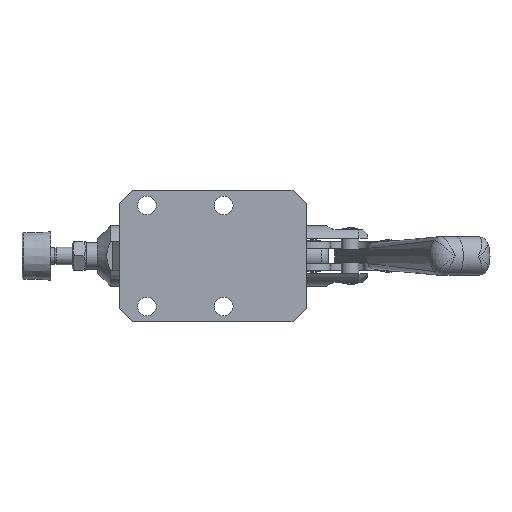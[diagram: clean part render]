
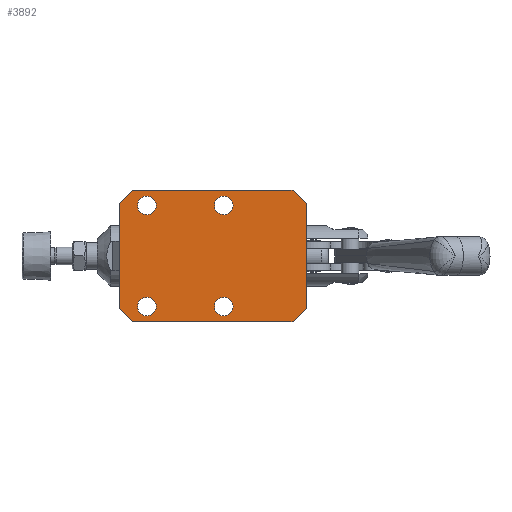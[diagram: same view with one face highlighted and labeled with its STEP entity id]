
A CAD part, front view. The second image highlights one B-rep face of the part: STEP entity #3892.
In plain terms, the highlighted planar face has unit normal (0, -1, 0).
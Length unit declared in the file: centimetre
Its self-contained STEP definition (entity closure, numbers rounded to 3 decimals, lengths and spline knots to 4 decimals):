
#204=FACE_BOUND($,#933,.T.);
#205=FACE_BOUND($,#934,.T.);
#206=FACE_BOUND($,#935,.T.);
#207=FACE_BOUND($,#936,.T.);
#208=FACE_BOUND($,#937,.T.);
#369=CIRCLE($,#4220,0.425);
#371=CIRCLE($,#4223,0.425);
#373=CIRCLE($,#4226,0.425);
#375=CIRCLE($,#4229,0.425);
#933=EDGE_LOOP($,(#2702));
#934=EDGE_LOOP($,(#2703));
#935=EDGE_LOOP($,(#2704));
#936=EDGE_LOOP($,(#2705));
#937=EDGE_LOOP($,(#2706,#2707,#2708,#2709,#2710,#2711,#2712,#2713));
#1339=LINE($,#5919,#1546);
#1340=LINE($,#5921,#1547);
#1341=LINE($,#5923,#1548);
#1342=LINE($,#5925,#1549);
#1343=LINE($,#5927,#1550);
#1344=LINE($,#5929,#1551);
#1345=LINE($,#5931,#1552);
#1346=LINE($,#5932,#1553);
#1546=VECTOR($,#4745,1.);
#1547=VECTOR($,#4746,1.);
#1548=VECTOR($,#4747,1.);
#1549=VECTOR($,#4748,1.);
#1550=VECTOR($,#4749,1.);
#1551=VECTOR($,#4750,1.);
#1552=VECTOR($,#4751,1.);
#1553=VECTOR($,#4752,1.);
#1750=VERTEX_POINT($,#5897);
#1752=VERTEX_POINT($,#5902);
#1754=VERTEX_POINT($,#5907);
#1756=VERTEX_POINT($,#5912);
#1758=VERTEX_POINT($,#5917);
#1759=VERTEX_POINT($,#5918);
#1760=VERTEX_POINT($,#5920);
#1761=VERTEX_POINT($,#5922);
#1762=VERTEX_POINT($,#5924);
#1763=VERTEX_POINT($,#5926);
#1764=VERTEX_POINT($,#5928);
#1765=VERTEX_POINT($,#5930);
#2141=EDGE_CURVE($,#1750,#1750,#369,.T.);
#2143=EDGE_CURVE($,#1752,#1752,#371,.T.);
#2145=EDGE_CURVE($,#1754,#1754,#373,.T.);
#2147=EDGE_CURVE($,#1756,#1756,#375,.T.);
#2149=EDGE_CURVE($,#1758,#1759,#1339,.T.);
#2150=EDGE_CURVE($,#1760,#1758,#1340,.T.);
#2151=EDGE_CURVE($,#1761,#1760,#1341,.T.);
#2152=EDGE_CURVE($,#1762,#1761,#1342,.T.);
#2153=EDGE_CURVE($,#1763,#1762,#1343,.T.);
#2154=EDGE_CURVE($,#1764,#1763,#1344,.T.);
#2155=EDGE_CURVE($,#1765,#1764,#1345,.T.);
#2156=EDGE_CURVE($,#1759,#1765,#1346,.T.);
#2702=ORIENTED_EDGE($,*,*,#2141,.T.);
#2703=ORIENTED_EDGE($,*,*,#2143,.T.);
#2704=ORIENTED_EDGE($,*,*,#2145,.T.);
#2705=ORIENTED_EDGE($,*,*,#2147,.T.);
#2706=ORIENTED_EDGE($,*,*,#2149,.F.);
#2707=ORIENTED_EDGE($,*,*,#2150,.F.);
#2708=ORIENTED_EDGE($,*,*,#2151,.F.);
#2709=ORIENTED_EDGE($,*,*,#2152,.F.);
#2710=ORIENTED_EDGE($,*,*,#2153,.F.);
#2711=ORIENTED_EDGE($,*,*,#2154,.F.);
#2712=ORIENTED_EDGE($,*,*,#2155,.F.);
#2713=ORIENTED_EDGE($,*,*,#2156,.F.);
#3769=PLANE($,#4231);
#3892=ADVANCED_FACE($,(#204,#205,#206,#207,#208),#3769,.F.);
#4220=AXIS2_PLACEMENT_3D($,#5898,#4721,#4722);
#4223=AXIS2_PLACEMENT_3D($,#5903,#4727,#4728);
#4226=AXIS2_PLACEMENT_3D($,#5908,#4733,#4734);
#4229=AXIS2_PLACEMENT_3D($,#5913,#4739,#4740);
#4231=AXIS2_PLACEMENT_3D($,#5916,#4743,#4744);
#4721=DIRECTION('center_axis',(0.,1.,0.));
#4722=DIRECTION('ref_axis',(1.,0.,0.));
#4727=DIRECTION('center_axis',(0.,1.,0.));
#4728=DIRECTION('ref_axis',(1.,0.,0.));
#4733=DIRECTION('center_axis',(0.,1.,0.));
#4734=DIRECTION('ref_axis',(1.,0.,0.));
#4739=DIRECTION('center_axis',(0.,1.,0.));
#4740=DIRECTION('ref_axis',(1.,0.,0.));
#4743=DIRECTION('center_axis',(0.,1.,0.));
#4744=DIRECTION('ref_axis',(0.,0.,1.));
#4745=DIRECTION($,(-1.,0.,0.));
#4746=DIRECTION($,(-0.707,0.,-0.707));
#4747=DIRECTION($,(0.,0.,-1.));
#4748=DIRECTION($,(0.707,0.,-0.707));
#4749=DIRECTION($,(1.,0.,0.));
#4750=DIRECTION($,(0.707,0.,0.707));
#4751=DIRECTION($,(0.,0.,1.));
#4752=DIRECTION($,(-0.707,0.,0.707));
#5897=CARTESIAN_POINT('',(4.325,-0.4,2.3));
#5898=CARTESIAN_POINT('Origin',(4.75,-0.4,2.3));
#5902=CARTESIAN_POINT('',(4.325,-0.4,-2.3));
#5903=CARTESIAN_POINT('Origin',(4.75,-0.4,-2.3));
#5907=CARTESIAN_POINT('',(0.825,-0.4,2.3));
#5908=CARTESIAN_POINT('Origin',(1.25,-0.4,2.3));
#5912=CARTESIAN_POINT('',(0.825,-0.4,-2.3));
#5913=CARTESIAN_POINT('Origin',(1.25,-0.4,-2.3));
#5916=CARTESIAN_POINT('Origin',(4.25,-0.4,0.));
#5917=CARTESIAN_POINT('',(7.9,-0.4,-3.));
#5918=CARTESIAN_POINT('',(0.6,-0.4,-3.));
#5919=CARTESIAN_POINT($,(7.9,-0.4,-3.));
#5920=CARTESIAN_POINT('',(8.5,-0.4,-2.4));
#5921=CARTESIAN_POINT($,(8.5,-0.4,-2.4));
#5922=CARTESIAN_POINT('',(8.5,-0.4,2.4));
#5923=CARTESIAN_POINT($,(8.5,-0.4,2.4));
#5924=CARTESIAN_POINT('',(7.9,-0.4,3.));
#5925=CARTESIAN_POINT($,(7.9,-0.4,3.));
#5926=CARTESIAN_POINT('',(0.6,-0.4,3.));
#5927=CARTESIAN_POINT($,(0.6,-0.4,3.));
#5928=CARTESIAN_POINT('',(0.,-0.4,2.4));
#5929=CARTESIAN_POINT($,(0.,-0.4,2.4));
#5930=CARTESIAN_POINT('',(0.,-0.4,-2.4));
#5931=CARTESIAN_POINT($,(0.,-0.4,-2.4));
#5932=CARTESIAN_POINT($,(0.6,-0.4,-3.));
